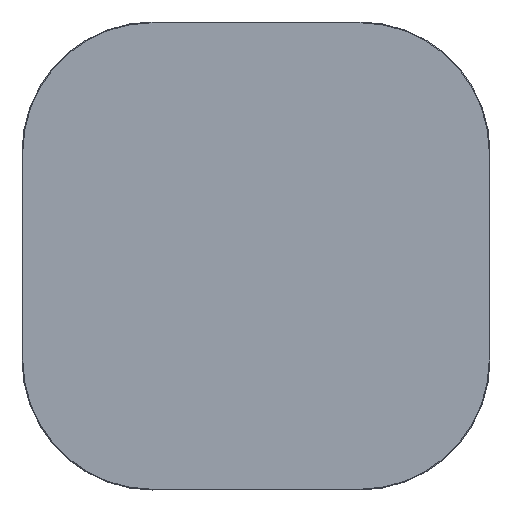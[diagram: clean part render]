
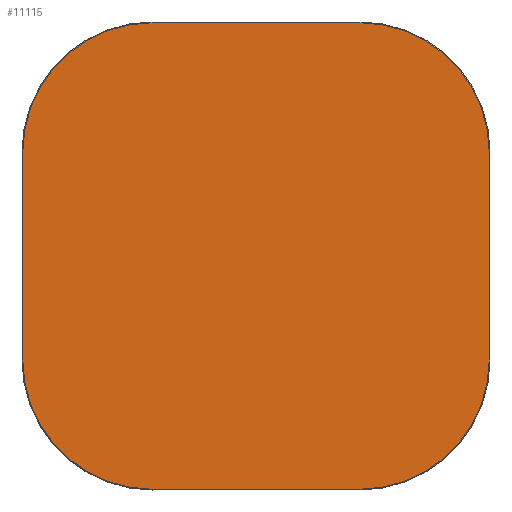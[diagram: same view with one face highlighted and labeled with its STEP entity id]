
A CAD part, top view. The second image highlights one B-rep face of the part: STEP entity #11115.
In plain terms, the highlighted planar face has unit normal (0, 0, 1).
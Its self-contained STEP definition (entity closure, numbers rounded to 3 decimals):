
#11040=CARTESIAN_POINT('',(0.,0.,20.));
#11041=DIRECTION('',(1.,0.,0.));
#11042=DIRECTION('',(0.,0.,1.));
#11043=AXIS2_PLACEMENT_3D('',#11040,#11042,#11041);
#11044=PLANE('',#11043);
#11045=CARTESIAN_POINT('',(-200.,-448.5,20.));
#11046=VERTEX_POINT('',#11045);
#11047=CARTESIAN_POINT('',(200.,-448.5,20.));
#11048=VERTEX_POINT('',#11047);
#11049=CARTESIAN_POINT('',(-200.,-448.5,20.));
#11050=DIRECTION('',(1.,0.,0.));
#11051=VECTOR('',#11050,400.);
#11052=LINE('',#11049,#11051);
#11053=EDGE_CURVE('',#11046,#11048,#11052,.T.);
#11054=ORIENTED_EDGE('E105',*,*,#11053,.T.);
#11055=CARTESIAN_POINT('',(448.5,-200.,20.));
#11056=VERTEX_POINT('',#11055);
#11057=CARTESIAN_POINT('',(200.,-200.,20.));
#11058=DIRECTION('',(0.,-1.,0.));
#11059=DIRECTION('',(0.,0.,1.));
#11060=AXIS2_PLACEMENT_3D('',#11057,#11059,#11058);
#11061=CIRCLE('',#11060,248.5);
#11062=EDGE_CURVE('',#11048,#11056,#11061,.T.);
#11063=ORIENTED_EDGE('E107',*,*,#11062,.T.);
#11064=CARTESIAN_POINT('',(448.5,200.,20.));
#11065=VERTEX_POINT('',#11064);
#11066=CARTESIAN_POINT('',(448.5,-200.,20.));
#11067=DIRECTION('',(0.,1.,0.));
#11068=VECTOR('',#11067,400.);
#11069=LINE('',#11066,#11068);
#11070=EDGE_CURVE('',#11056,#11065,#11069,.T.);
#11071=ORIENTED_EDGE('E109',*,*,#11070,.T.);
#11072=CARTESIAN_POINT('',(200.,448.5,20.));
#11073=VERTEX_POINT('',#11072);
#11074=CARTESIAN_POINT('',(200.,200.,20.));
#11075=DIRECTION('',(1.,0.,0.));
#11076=DIRECTION('',(0.,0.,1.));
#11077=AXIS2_PLACEMENT_3D('',#11074,#11076,#11075);
#11078=CIRCLE('',#11077,248.5);
#11079=EDGE_CURVE('',#11065,#11073,#11078,.T.);
#11080=ORIENTED_EDGE('E111',*,*,#11079,.T.);
#11081=CARTESIAN_POINT('',(-200.,448.5,20.));
#11082=VERTEX_POINT('',#11081);
#11083=CARTESIAN_POINT('',(200.,448.5,20.));
#11084=DIRECTION('',(-1.,0.,0.));
#11085=VECTOR('',#11084,400.);
#11086=LINE('',#11083,#11085);
#11087=EDGE_CURVE('',#11073,#11082,#11086,.T.);
#11088=ORIENTED_EDGE('E113',*,*,#11087,.T.);
#11089=CARTESIAN_POINT('',(-448.5,200.,20.));
#11090=VERTEX_POINT('',#11089);
#11091=CARTESIAN_POINT('',(-200.,200.,20.));
#11092=DIRECTION('',(0.,1.,0.));
#11093=DIRECTION('',(0.,0.,1.));
#11094=AXIS2_PLACEMENT_3D('',#11091,#11093,#11092);
#11095=CIRCLE('',#11094,248.5);
#11096=EDGE_CURVE('',#11082,#11090,#11095,.T.);
#11097=ORIENTED_EDGE('E115',*,*,#11096,.T.);
#11098=CARTESIAN_POINT('',(-448.5,-200.,20.));
#11099=VERTEX_POINT('',#11098);
#11100=CARTESIAN_POINT('',(-448.5,200.,20.));
#11101=DIRECTION('',(0.,-1.,0.));
#11102=VECTOR('',#11101,400.);
#11103=LINE('',#11100,#11102);
#11104=EDGE_CURVE('',#11090,#11099,#11103,.T.);
#11105=ORIENTED_EDGE('E117',*,*,#11104,.T.);
#11106=CARTESIAN_POINT('',(-200.,-200.,20.));
#11107=DIRECTION('',(-1.,0.,0.));
#11108=DIRECTION('',(-0.,0.,1.));
#11109=AXIS2_PLACEMENT_3D('',#11106,#11108,#11107);
#11110=CIRCLE('',#11109,248.5);
#11111=EDGE_CURVE('',#11099,#11046,#11110,.T.);
#11112=ORIENTED_EDGE('E119',*,*,#11111,.T.);
#11113=EDGE_LOOP('',(#11054,#11063,#11071,#11080,#11088,#11097,#11105,#11112));
#11114=FACE_OUTER_BOUND('',#11113,.T.);
#11115=ADVANCED_FACE('F2',(#11114),#11044,.T.);
